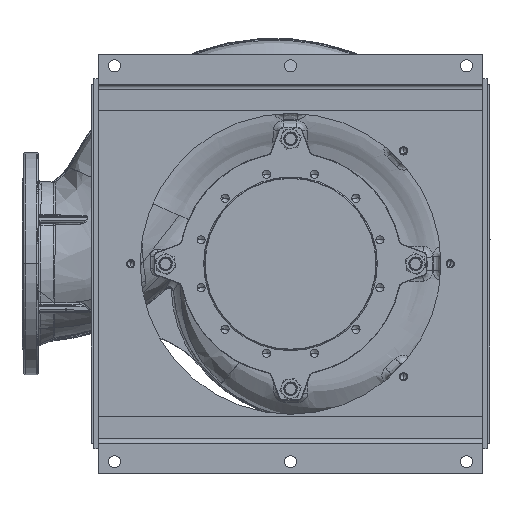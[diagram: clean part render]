
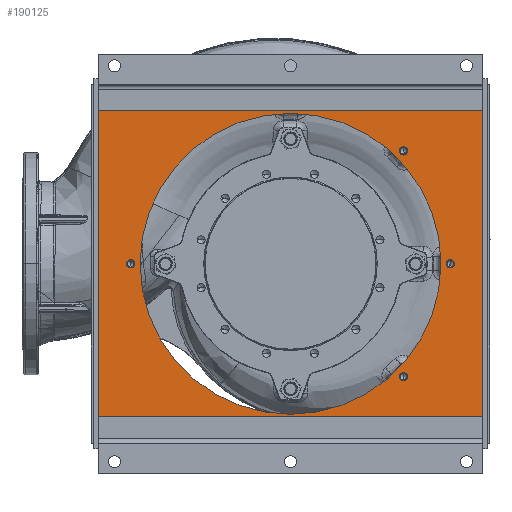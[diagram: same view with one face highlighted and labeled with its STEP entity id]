
A CAD part, front view. The second image highlights one B-rep face of the part: STEP entity #190125.
In plain terms, the highlighted planar face has unit normal (0, -1, 0).
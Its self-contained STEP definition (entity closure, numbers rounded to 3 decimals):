
#652 = FACE_BOUND ( 'NONE', #183760, .T. ) ;
#4648 = VERTEX_POINT ( 'NONE', #157516 ) ;
#5256 = ORIENTED_EDGE ( 'NONE', *, *, #67007, .T. ) ;
#6068 = ORIENTED_EDGE ( 'NONE', *, *, #51577, .T. ) ;
#6403 = CARTESIAN_POINT ( 'NONE',  ( 0., -553.5, 0. ) ) ;
#6883 = CARTESIAN_POINT ( 'NONE',  ( -336., -553.5, 0. ) ) ;
#8705 = DIRECTION ( 'NONE',  ( 0., 1., 0. ) ) ;
#8797 = CIRCLE ( 'NONE', #25928, 9. ) ;
#9073 = CARTESIAN_POINT ( 'NONE',  ( -345., -553.5, 0. ) ) ;
#9582 = VERTEX_POINT ( 'NONE', #36666 ) ;
#9923 = ORIENTED_EDGE ( 'NONE', *, *, #60283, .T. ) ;
#10744 = ORIENTED_EDGE ( 'NONE', *, *, #67049, .T. ) ;
#12795 = VERTEX_POINT ( 'NONE', #172474 ) ;
#14736 = ORIENTED_EDGE ( 'NONE', *, *, #67346, .F. ) ;
#15261 = CARTESIAN_POINT ( 'NONE',  ( 325., -553.5, 0. ) ) ;
#16234 = CARTESIAN_POINT ( 'NONE',  ( -415., -553.5, -330.5 ) ) ;
#17337 = CARTESIAN_POINT ( 'NONE',  ( 345., -553.5, 0. ) ) ;
#18864 = PLANE ( 'NONE',  #56718 ) ;
#21869 = AXIS2_PLACEMENT_3D ( 'NONE', #127059, #29902, #143503 ) ;
#22401 = VERTEX_POINT ( 'NONE', #81928 ) ;
#22711 = DIRECTION ( 'NONE',  ( -1., 0., 0. ) ) ;
#24005 = ORIENTED_EDGE ( 'NONE', *, *, #69530, .T. ) ;
#25438 = DIRECTION ( 'NONE',  ( -1., 0., 0. ) ) ;
#25861 = DIRECTION ( 'NONE',  ( 1., 0., 0. ) ) ;
#25928 = AXIS2_PLACEMENT_3D ( 'NONE', #105781, #8705, #122194 ) ;
#29212 = ORIENTED_EDGE ( 'NONE', *, *, #70765, .T. ) ;
#29902 = DIRECTION ( 'NONE',  ( 0., 1., 0. ) ) ;
#33101 = ORIENTED_EDGE ( 'NONE', *, *, #72348, .F. ) ;
#33618 = DIRECTION ( 'NONE',  ( -1., 0., 0. ) ) ;
#35930 = VERTEX_POINT ( 'NONE', #6883 ) ;
#36413 = EDGE_CURVE ( 'NONE', #12795, #43086, #199220, .T. ) ;
#36666 = CARTESIAN_POINT ( 'NONE',  ( 415., -553.5, -330.5 ) ) ;
#36864 = CARTESIAN_POINT ( 'NONE',  ( 243.952, -553.5, -243.952 ) ) ;
#37015 = VECTOR ( 'NONE', #102129, 1000. ) ;
#39436 = CARTESIAN_POINT ( 'NONE',  ( 252.952, -553.5, -243.952 ) ) ;
#41382 = EDGE_CURVE ( 'NONE', #35930, #166335, #64764, .T. ) ;
#43086 = VERTEX_POINT ( 'NONE', #123061 ) ;
#43754 = FACE_BOUND ( 'NONE', #159021, .T. ) ;
#44949 = CARTESIAN_POINT ( 'NONE',  ( -354., -553.5, 0. ) ) ;
#46308 = EDGE_CURVE ( 'NONE', #22401, #165110, #143174, .T. ) ;
#51577 = EDGE_CURVE ( 'NONE', #210342, #205056, #8797, .T. ) ;
#53047 = DIRECTION ( 'NONE',  ( -1., 0., 0. ) ) ;
#53309 = CIRCLE ( 'NONE', #147490, 9. ) ;
#55616 = VERTEX_POINT ( 'NONE', #208982 ) ;
#56718 = AXIS2_PLACEMENT_3D ( 'NONE', #83957, #198082, #100327 ) ;
#58568 = CARTESIAN_POINT ( 'NONE',  ( 345., -553.5, 0. ) ) ;
#59054 = CIRCLE ( 'NONE', #124072, 9. ) ;
#59430 = CARTESIAN_POINT ( 'NONE',  ( -325., -553.5, 0. ) ) ;
#59745 = CARTESIAN_POINT ( 'NONE',  ( -345., -553.5, 0. ) ) ;
#60283 = EDGE_CURVE ( 'NONE', #89159, #69152, #128912, .T. ) ;
#61120 = AXIS2_PLACEMENT_3D ( 'NONE', #59745, #173748, #76050 ) ;
#61251 = CARTESIAN_POINT ( 'NONE',  ( 234.952, -553.5, -243.952 ) ) ;
#63330 = EDGE_CURVE ( 'NONE', #43086, #12795, #67272, .T. ) ;
#64764 = CIRCLE ( 'NONE', #61120, 9. ) ;
#65453 = EDGE_CURVE ( 'NONE', #166335, #35930, #59054, .T. ) ;
#65490 = EDGE_CURVE ( 'NONE', #165110, #22401, #178858, .T. ) ;
#65954 = LINE ( 'NONE', #159663, #71041 ) ;
#67007 = EDGE_CURVE ( 'NONE', #205056, #210342, #53309, .T. ) ;
#67049 = EDGE_CURVE ( 'NONE', #69152, #89159, #173140, .T. ) ;
#67272 = CIRCLE ( 'NONE', #21869, 9. ) ;
#67346 = EDGE_CURVE ( 'NONE', #78390, #55616, #65954, .T. ) ;
#69152 = VERTEX_POINT ( 'NONE', #59430 ) ;
#69530 = EDGE_CURVE ( 'NONE', #78390, #9582, #131517, .T. ) ;
#70765 = EDGE_CURVE ( 'NONE', #9582, #4648, #80051, .T. ) ;
#71041 = VECTOR ( 'NONE', #78442, 1000. ) ;
#72348 = EDGE_CURVE ( 'NONE', #55616, #4648, #150733, .T. ) ;
#74890 = DIRECTION ( 'NONE',  ( -1., 0., 0. ) ) ;
#76050 = DIRECTION ( 'NONE',  ( -1., 0., 0. ) ) ;
#78390 = VERTEX_POINT ( 'NONE', #177693 ) ;
#78442 = DIRECTION ( 'NONE',  ( 0., 0., 1. ) ) ;
#80051 = LINE ( 'NONE', #199231, #37015 ) ;
#81928 = CARTESIAN_POINT ( 'NONE',  ( 354., -553.5, 0. ) ) ;
#83957 = CARTESIAN_POINT ( 'NONE',  ( 430., -553.5, -387.5 ) ) ;
#84489 = EDGE_LOOP ( 'NONE', ( #181787, #189755 ) ) ;
#85327 = DIRECTION ( 'NONE',  ( 0., 1., 0. ) ) ;
#86313 = EDGE_LOOP ( 'NONE', ( #143190, #171354 ) ) ;
#86793 = FACE_BOUND ( 'NONE', #191844, .T. ) ;
#87192 = CARTESIAN_POINT ( 'NONE',  ( 0., -553.5, 0. ) ) ;
#88437 = AXIS2_PLACEMENT_3D ( 'NONE', #183066, #85327, #199448 ) ;
#89159 = VERTEX_POINT ( 'NONE', #15261 ) ;
#91891 = FACE_BOUND ( 'NONE', #86313, .T. ) ;
#100327 = DIRECTION ( 'NONE',  ( -1., 0., 0. ) ) ;
#101631 = AXIS2_PLACEMENT_3D ( 'NONE', #87192, #201345, #103517 ) ;
#102129 = DIRECTION ( 'NONE',  ( 0., 0., 1. ) ) ;
#103517 = DIRECTION ( 'NONE',  ( -1., 0., 0. ) ) ;
#105781 = CARTESIAN_POINT ( 'NONE',  ( 243.952, -553.5, -243.952 ) ) ;
#119886 = DIRECTION ( 'NONE',  ( 0., 1., 0. ) ) ;
#121311 = VECTOR ( 'NONE', #211150, 1000. ) ;
#122194 = DIRECTION ( 'NONE',  ( -1., 0., 0. ) ) ;
#122556 = DIRECTION ( 'NONE',  ( 0., 1., 0. ) ) ;
#122979 = CARTESIAN_POINT ( 'NONE',  ( -415., -553.5, 330.5 ) ) ;
#123061 = CARTESIAN_POINT ( 'NONE',  ( 234.952, -553.5, 243.952 ) ) ;
#124072 = AXIS2_PLACEMENT_3D ( 'NONE', #9073, #122556, #25438 ) ;
#127059 = CARTESIAN_POINT ( 'NONE',  ( 243.952, -553.5, 243.952 ) ) ;
#128912 = CIRCLE ( 'NONE', #101631, 325. ) ;
#130849 = DIRECTION ( 'NONE',  ( 0., 1., 0. ) ) ;
#131517 = LINE ( 'NONE', #16234, #121311 ) ;
#140728 = CARTESIAN_POINT ( 'NONE',  ( 336., -553.5, 0. ) ) ;
#143174 = CIRCLE ( 'NONE', #190158, 9. ) ;
#143190 = ORIENTED_EDGE ( 'NONE', *, *, #63330, .T. ) ;
#143503 = DIRECTION ( 'NONE',  ( -1., 0., 0. ) ) ;
#145654 = VECTOR ( 'NONE', #25861, 1000. ) ;
#147490 = AXIS2_PLACEMENT_3D ( 'NONE', #36864, #150488, #53047 ) ;
#149672 = EDGE_LOOP ( 'NONE', ( #14736, #24005, #29212, #33101 ) ) ;
#150488 = DIRECTION ( 'NONE',  ( 0., 1., 0. ) ) ;
#150733 = LINE ( 'NONE', #122979, #145654 ) ;
#157516 = CARTESIAN_POINT ( 'NONE',  ( 415., -553.5, 330.5 ) ) ;
#159021 = EDGE_LOOP ( 'NONE', ( #5256, #6068 ) ) ;
#159663 = CARTESIAN_POINT ( 'NONE',  ( -415., -553.5, 400. ) ) ;
#165110 = VERTEX_POINT ( 'NONE', #140728 ) ;
#166335 = VERTEX_POINT ( 'NONE', #44949 ) ;
#168507 = FACE_OUTER_BOUND ( 'NONE', #149672, .T. ) ;
#169473 = AXIS2_PLACEMENT_3D ( 'NONE', #6403, #119886, #22711 ) ;
#171354 = ORIENTED_EDGE ( 'NONE', *, *, #36413, .T. ) ;
#172474 = CARTESIAN_POINT ( 'NONE',  ( 252.952, -553.5, 243.952 ) ) ;
#172564 = DIRECTION ( 'NONE',  ( 0., 1., 0. ) ) ;
#173140 = CIRCLE ( 'NONE', #169473, 325. ) ;
#173637 = FACE_BOUND ( 'NONE', #84489, .T. ) ;
#173748 = DIRECTION ( 'NONE',  ( 0., 1., 0. ) ) ;
#177693 = CARTESIAN_POINT ( 'NONE',  ( -415., -553.5, -330.5 ) ) ;
#178858 = CIRCLE ( 'NONE', #178862, 9. ) ;
#178862 = AXIS2_PLACEMENT_3D ( 'NONE', #58568, #172564, #74890 ) ;
#181787 = ORIENTED_EDGE ( 'NONE', *, *, #65453, .T. ) ;
#183066 = CARTESIAN_POINT ( 'NONE',  ( 243.952, -553.5, 243.952 ) ) ;
#183760 = EDGE_LOOP ( 'NONE', ( #9923, #10744 ) ) ;
#189755 = ORIENTED_EDGE ( 'NONE', *, *, #41382, .T. ) ;
#190125 = ADVANCED_FACE ( 'NONE', ( #91891, #173637, #86793, #43754, #652, #168507 ), #18864, .F. ) ;
#190158 = AXIS2_PLACEMENT_3D ( 'NONE', #17337, #130849, #33618 ) ;
#191844 = EDGE_LOOP ( 'NONE', ( #202445, #203263 ) ) ;
#198082 = DIRECTION ( 'NONE',  ( 0., 1., 0. ) ) ;
#199220 = CIRCLE ( 'NONE', #88437, 9. ) ;
#199231 = CARTESIAN_POINT ( 'NONE',  ( 415., -553.5, 400. ) ) ;
#199448 = DIRECTION ( 'NONE',  ( -1., 0., 0. ) ) ;
#201345 = DIRECTION ( 'NONE',  ( 0., 1., 0. ) ) ;
#202445 = ORIENTED_EDGE ( 'NONE', *, *, #65490, .T. ) ;
#203263 = ORIENTED_EDGE ( 'NONE', *, *, #46308, .T. ) ;
#205056 = VERTEX_POINT ( 'NONE', #61251 ) ;
#208982 = CARTESIAN_POINT ( 'NONE',  ( -415., -553.5, 330.5 ) ) ;
#210342 = VERTEX_POINT ( 'NONE', #39436 ) ;
#211150 = DIRECTION ( 'NONE',  ( 1., 0., 0. ) ) ;
